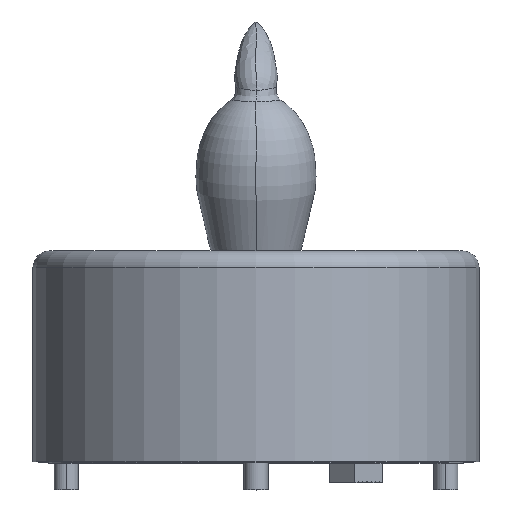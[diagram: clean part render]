
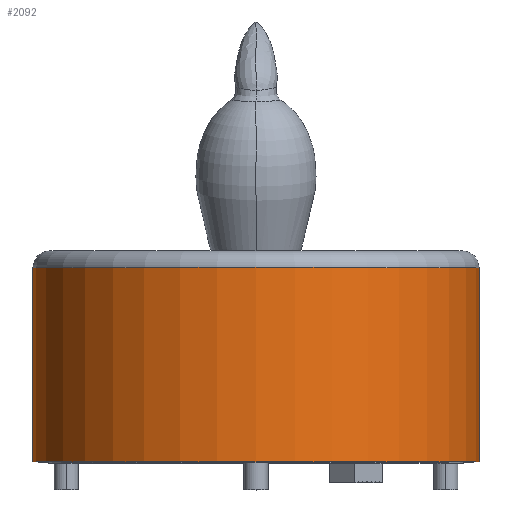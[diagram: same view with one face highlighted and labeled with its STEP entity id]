
A CAD part, top view. The second image highlights one B-rep face of the part: STEP entity #2092.
In plain terms, the highlighted cylindrical face has radius 18.5 mm (diameter 37 mm), a partial arc.
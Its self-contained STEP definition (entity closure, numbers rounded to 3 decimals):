
#535=DIRECTION('',(0.,1.,0.));
#536=VECTOR('',#535,16.1);
#537=CARTESIAN_POINT('',(18.5,0.1,0.));
#538=LINE('',#537,#536);
#730=CARTESIAN_POINT('',(0.,16.2,0.));
#731=DIRECTION('',(0.,1.,0.));
#732=DIRECTION('',(-1.,0.,0.));
#733=AXIS2_PLACEMENT_3D('',#730,#731,#732);
#735=CARTESIAN_POINT('',(0.,0.1,0.));
#736=DIRECTION('',(0.,1.,0.));
#737=DIRECTION('',(-1.,0.,0.));
#738=AXIS2_PLACEMENT_3D('',#735,#736,#737);
#740=DIRECTION('',(0.,1.,0.));
#741=VECTOR('',#740,16.1);
#742=CARTESIAN_POINT('',(-18.5,0.1,0.));
#743=LINE('',#742,#741);
#1264=CARTESIAN_POINT('',(18.5,0.1,0.));
#1265=CARTESIAN_POINT('',(-18.5,0.1,0.));
#1266=VERTEX_POINT('',#1264);
#1267=VERTEX_POINT('',#1265);
#1455=CARTESIAN_POINT('',(18.5,16.2,0.));
#1456=CARTESIAN_POINT('',(-18.5,16.2,0.));
#1457=VERTEX_POINT('',#1455);
#1458=VERTEX_POINT('',#1456);
#2081=CARTESIAN_POINT('',(0.,0.,0.));
#2082=DIRECTION('',(0.,1.,0.));
#2083=DIRECTION('',(1.,0.,0.));
#2084=AXIS2_PLACEMENT_3D('',#2081,#2082,#2083);
#2085=CYLINDRICAL_SURFACE('',#2084,18.5);
#2086=ORIENTED_EDGE('',*,*,#2075,.T.);
#2087=ORIENTED_EDGE('',*,*,#1755,.F.);
#2088=ORIENTED_EDGE('',*,*,#1736,.F.);
#2089=ORIENTED_EDGE('',*,*,#1752,.T.);
#2090=EDGE_LOOP('',(#2086,#2087,#2088,#2089));
#2091=FACE_OUTER_BOUND('',#2090,.F.);
#2092=ADVANCED_FACE('',(#2091),#2085,.T.);
#734=CIRCLE('',#733,18.5);
#739=CIRCLE('',#738,18.5);
#1736=EDGE_CURVE('',#1267,#1266,#739,.T.);
#1752=EDGE_CURVE('',#1267,#1458,#743,.T.);
#1755=EDGE_CURVE('',#1266,#1457,#538,.T.);
#2075=EDGE_CURVE('',#1458,#1457,#734,.T.);
